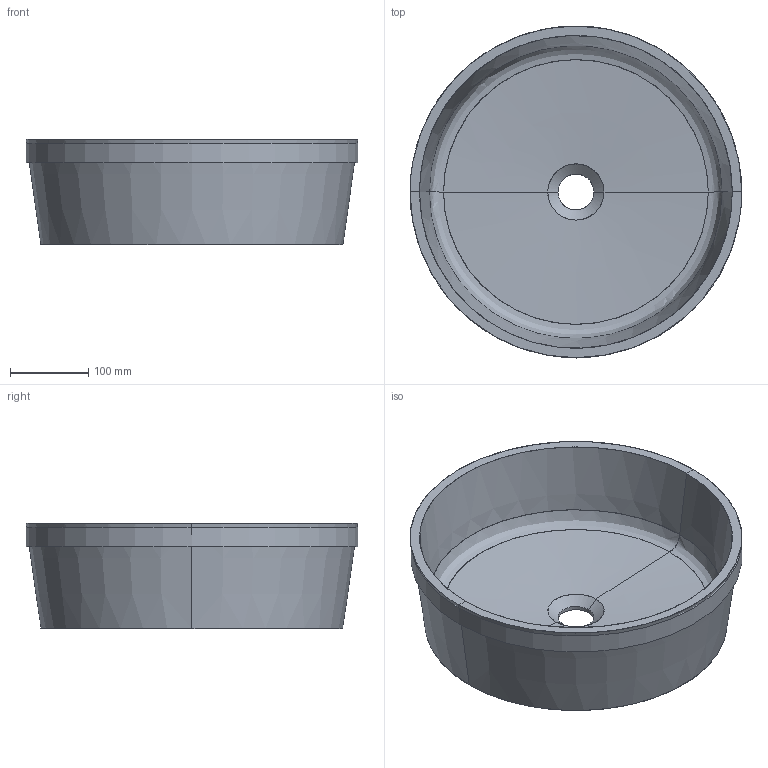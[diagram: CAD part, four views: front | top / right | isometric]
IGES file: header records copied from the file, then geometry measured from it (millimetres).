
Start section: Data from Parasolid IGES Translator 22.0.50, Copyright(c) 2006 Siemens P LM Software. All Rights Reserved.
Global section: file name: noorth-washbasin- D 42,5 W 42,5_5848.igs; native system: By Siemens PLM Incorporated; preprocessor: XPlus GENERIC/IGES 22.0.50; author: Noname; organization: Noname; date: 20240828.112407; units: metre
Bounding box: 425.25 x 425.32 x 135 mm (x, y, z)
Volume: 213647.9 mm3; surface area: 641312.2 mm2
Topology: 1 solids, 1 shells, 31 faces, 305 edges, 303 vertices
Faces by surface type: bspline 16, extrusion 8, revolution 3, cylinder 2, plane 2
Full cylindrical faces by diameter (mm): 412 x1, 425 x1
